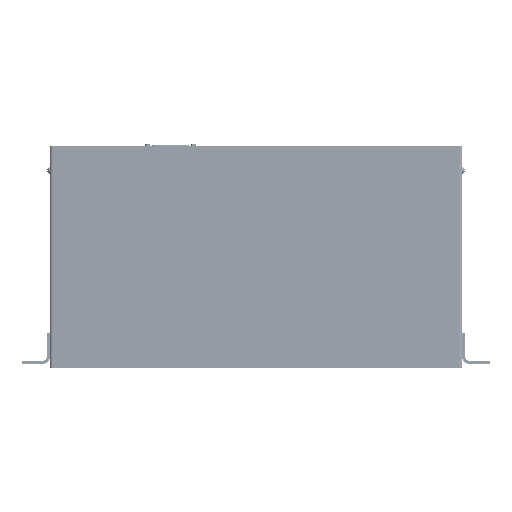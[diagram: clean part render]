
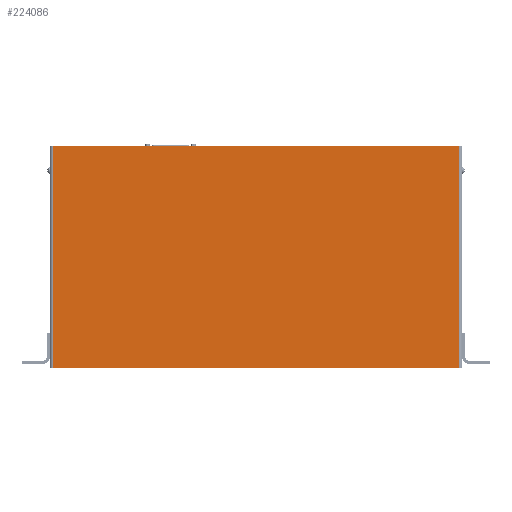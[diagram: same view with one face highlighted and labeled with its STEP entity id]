
A CAD part, top view. The second image highlights one B-rep face of the part: STEP entity #224086.
In plain terms, the highlighted planar face has unit normal (0, 0, 1).
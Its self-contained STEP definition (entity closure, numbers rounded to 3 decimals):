
#25186=LINE('',#362033,#47628);
#25191=LINE('',#362049,#47633);
#25201=LINE('',#362076,#47643);
#25204=LINE('',#362081,#47646);
#47628=VECTOR('',#256872,10.);
#47633=VECTOR('',#256887,10.);
#47643=VECTOR('',#256919,10.);
#47646=VECTOR('',#256926,10.);
#69725=FACE_OUTER_BOUND('',#82517,.T.);
#82517=EDGE_LOOP('',(#173342,#173343,#173344,#173345));
#101934=VERTEX_POINT('',#362030);
#101935=VERTEX_POINT('',#362032);
#101940=VERTEX_POINT('',#362046);
#101941=VERTEX_POINT('',#362048);
#127567=EDGE_CURVE('',#101935,#101934,#25186,.T.);
#127575=EDGE_CURVE('',#101941,#101940,#25191,.T.);
#127590=EDGE_CURVE('',#101935,#101940,#25201,.T.);
#127593=EDGE_CURVE('',#101941,#101934,#25204,.T.);
#173342=ORIENTED_EDGE('',*,*,#127590,.F.);
#173343=ORIENTED_EDGE('',*,*,#127567,.T.);
#173344=ORIENTED_EDGE('',*,*,#127593,.F.);
#173345=ORIENTED_EDGE('',*,*,#127575,.T.);
#214232=PLANE('',#234607);
#224086=ADVANCED_FACE('',(#69725),#214232,.T.);
#234607=AXIS2_PLACEMENT_3D('',#362084,#256931,#256932);
#256872=DIRECTION('',(1.,0.,0.));
#256887=DIRECTION('',(-1.,0.,0.));
#256919=DIRECTION('',(0.,1.,0.));
#256926=DIRECTION('',(0.,-1.,0.));
#256931=DIRECTION('center_axis',(0.,0.,1.));
#256932=DIRECTION('ref_axis',(1.,0.,0.));
#362030=CARTESIAN_POINT('',(420.903,0.,0.));
#362032=CARTESIAN_POINT('',(1.524,0.,0.));
#362033=CARTESIAN_POINT('',(-1.524,0.,0.));
#362046=CARTESIAN_POINT('',(1.524,228.6,0.));
#362048=CARTESIAN_POINT('',(420.903,228.6,0.));
#362049=CARTESIAN_POINT('',(423.951,228.6,0.));
#362076=CARTESIAN_POINT('',(1.524,57.15,0.));
#362081=CARTESIAN_POINT('',(420.903,171.45,0.));
#362084=CARTESIAN_POINT('Origin',(211.214,114.3,0.));
